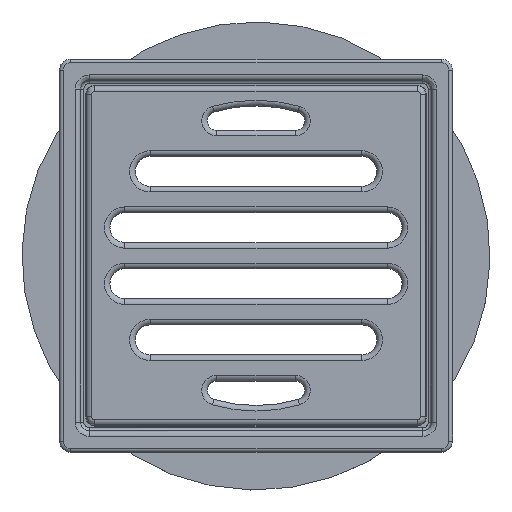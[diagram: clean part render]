
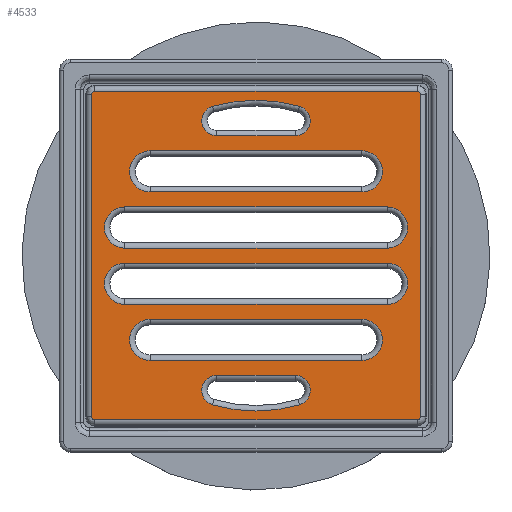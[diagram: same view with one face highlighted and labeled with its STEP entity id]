
A CAD part, top view. The second image highlights one B-rep face of the part: STEP entity #4533.
In plain terms, the highlighted planar face has unit normal (0, 0, 1).
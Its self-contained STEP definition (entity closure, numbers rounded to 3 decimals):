
#206=FACE_BOUND('',#959,.T.);
#207=FACE_BOUND('',#960,.T.);
#208=FACE_BOUND('',#961,.T.);
#209=FACE_BOUND('',#962,.T.);
#210=FACE_BOUND('',#963,.T.);
#211=FACE_BOUND('',#964,.T.);
#293=PLANE('',#5115);
#640=FACE_OUTER_BOUND('',#958,.T.);
#958=EDGE_LOOP('',(#3934,#3935,#3936,#3937,#3938,#3939,#3940,#3941));
#959=EDGE_LOOP('',(#3942,#3943,#3944,#3945));
#960=EDGE_LOOP('',(#3946,#3947,#3948,#3949));
#961=EDGE_LOOP('',(#3950,#3951,#3952,#3953));
#962=EDGE_LOOP('',(#3954,#3955,#3956,#3957));
#963=EDGE_LOOP('',(#3958,#3959,#3960,#3961));
#964=EDGE_LOOP('',(#3962,#3963,#3964,#3965));
#1278=LINE('',#9217,#1563);
#1279=LINE('',#9223,#1564);
#1310=LINE('',#9319,#1595);
#1311=LINE('',#9323,#1596);
#1312=LINE('',#9327,#1597);
#1313=LINE('',#9331,#1598);
#1314=LINE('',#9335,#1599);
#1315=LINE('',#9339,#1600);
#1316=LINE('',#9347,#1601);
#1317=LINE('',#9351,#1602);
#1318=LINE('',#9355,#1603);
#1319=LINE('',#9361,#1604);
#1320=LINE('',#9364,#1605);
#1321=LINE('',#9372,#1606);
#1563=VECTOR('',#6241,1.);
#1564=VECTOR('',#6250,1.);
#1595=VECTOR('',#6363,1.);
#1596=VECTOR('',#6366,1.);
#1597=VECTOR('',#6369,1.);
#1598=VECTOR('',#6372,1.);
#1599=VECTOR('',#6375,1.);
#1600=VECTOR('',#6378,1.);
#1601=VECTOR('',#6385,1.);
#1602=VECTOR('',#6388,1.);
#1603=VECTOR('',#6391,1.);
#1604=VECTOR('',#6396,1.);
#1605=VECTOR('',#6399,1.);
#1606=VECTOR('',#6406,1.);
#1821=CIRCLE('',#5067,5.5);
#1825=CIRCLE('',#5073,5.5);
#1842=CIRCLE('',#5116,0.88);
#1843=CIRCLE('',#5117,0.88);
#1844=CIRCLE('',#5118,0.88);
#1845=CIRCLE('',#5119,0.88);
#1846=CIRCLE('',#5120,5.5);
#1847=CIRCLE('',#5121,5.5);
#1848=CIRCLE('',#5122,41.5);
#1849=CIRCLE('',#5123,4.);
#1850=CIRCLE('',#5124,4.);
#1851=CIRCLE('',#5125,5.5);
#1852=CIRCLE('',#5126,5.5);
#1853=CIRCLE('',#5127,5.5);
#1854=CIRCLE('',#5128,5.5);
#1855=CIRCLE('',#5129,4.);
#1856=CIRCLE('',#5130,41.5);
#1857=CIRCLE('',#5131,4.);
#2226=VERTEX_POINT('',#9209);
#2227=VERTEX_POINT('',#9211);
#2228=VERTEX_POINT('',#9215);
#2229=VERTEX_POINT('',#9219);
#2252=VERTEX_POINT('',#9317);
#2253=VERTEX_POINT('',#9318);
#2254=VERTEX_POINT('',#9320);
#2255=VERTEX_POINT('',#9322);
#2256=VERTEX_POINT('',#9324);
#2257=VERTEX_POINT('',#9326);
#2258=VERTEX_POINT('',#9328);
#2259=VERTEX_POINT('',#9330);
#2260=VERTEX_POINT('',#9333);
#2261=VERTEX_POINT('',#9334);
#2262=VERTEX_POINT('',#9336);
#2263=VERTEX_POINT('',#9338);
#2264=VERTEX_POINT('',#9341);
#2265=VERTEX_POINT('',#9342);
#2266=VERTEX_POINT('',#9344);
#2267=VERTEX_POINT('',#9346);
#2268=VERTEX_POINT('',#9349);
#2269=VERTEX_POINT('',#9350);
#2270=VERTEX_POINT('',#9352);
#2271=VERTEX_POINT('',#9354);
#2272=VERTEX_POINT('',#9357);
#2273=VERTEX_POINT('',#9358);
#2274=VERTEX_POINT('',#9360);
#2275=VERTEX_POINT('',#9362);
#2276=VERTEX_POINT('',#9365);
#2277=VERTEX_POINT('',#9366);
#2278=VERTEX_POINT('',#9368);
#2279=VERTEX_POINT('',#9370);
#2785=EDGE_CURVE('',#2226,#2227,#1821,.T.);
#2788=EDGE_CURVE('',#2228,#2226,#1278,.T.);
#2790=EDGE_CURVE('',#2229,#2228,#1825,.T.);
#2791=EDGE_CURVE('',#2227,#2229,#1279,.T.);
#2838=EDGE_CURVE('',#2252,#2253,#1310,.F.);
#2839=EDGE_CURVE('',#2253,#2254,#1842,.T.);
#2840=EDGE_CURVE('',#2254,#2255,#1311,.T.);
#2841=EDGE_CURVE('',#2255,#2256,#1843,.T.);
#2842=EDGE_CURVE('',#2256,#2257,#1312,.F.);
#2843=EDGE_CURVE('',#2257,#2258,#1844,.T.);
#2844=EDGE_CURVE('',#2258,#2259,#1313,.T.);
#2845=EDGE_CURVE('',#2259,#2252,#1845,.T.);
#2846=EDGE_CURVE('',#2260,#2261,#1314,.F.);
#2847=EDGE_CURVE('',#2262,#2260,#1846,.T.);
#2848=EDGE_CURVE('',#2263,#2262,#1315,.F.);
#2849=EDGE_CURVE('',#2261,#2263,#1847,.T.);
#2850=EDGE_CURVE('',#2264,#2265,#1848,.T.);
#2851=EDGE_CURVE('',#2266,#2264,#1849,.T.);
#2852=EDGE_CURVE('',#2267,#2266,#1316,.F.);
#2853=EDGE_CURVE('',#2265,#2267,#1850,.T.);
#2854=EDGE_CURVE('',#2268,#2269,#1317,.F.);
#2855=EDGE_CURVE('',#2270,#2268,#1851,.T.);
#2856=EDGE_CURVE('',#2271,#2270,#1318,.F.);
#2857=EDGE_CURVE('',#2269,#2271,#1852,.T.);
#2858=EDGE_CURVE('',#2272,#2273,#1853,.T.);
#2859=EDGE_CURVE('',#2274,#2272,#1319,.T.);
#2860=EDGE_CURVE('',#2275,#2274,#1854,.T.);
#2861=EDGE_CURVE('',#2273,#2275,#1320,.T.);
#2862=EDGE_CURVE('',#2276,#2277,#1855,.T.);
#2863=EDGE_CURVE('',#2278,#2276,#1856,.T.);
#2864=EDGE_CURVE('',#2279,#2278,#1857,.T.);
#2865=EDGE_CURVE('',#2277,#2279,#1321,.T.);
#3934=ORIENTED_EDGE('',*,*,#2838,.T.);
#3935=ORIENTED_EDGE('',*,*,#2839,.T.);
#3936=ORIENTED_EDGE('',*,*,#2840,.T.);
#3937=ORIENTED_EDGE('',*,*,#2841,.T.);
#3938=ORIENTED_EDGE('',*,*,#2842,.T.);
#3939=ORIENTED_EDGE('',*,*,#2843,.T.);
#3940=ORIENTED_EDGE('',*,*,#2844,.T.);
#3941=ORIENTED_EDGE('',*,*,#2845,.T.);
#3942=ORIENTED_EDGE('',*,*,#2846,.F.);
#3943=ORIENTED_EDGE('',*,*,#2847,.F.);
#3944=ORIENTED_EDGE('',*,*,#2848,.F.);
#3945=ORIENTED_EDGE('',*,*,#2849,.F.);
#3946=ORIENTED_EDGE('',*,*,#2850,.F.);
#3947=ORIENTED_EDGE('',*,*,#2851,.F.);
#3948=ORIENTED_EDGE('',*,*,#2852,.F.);
#3949=ORIENTED_EDGE('',*,*,#2853,.F.);
#3950=ORIENTED_EDGE('',*,*,#2854,.F.);
#3951=ORIENTED_EDGE('',*,*,#2855,.F.);
#3952=ORIENTED_EDGE('',*,*,#2856,.F.);
#3953=ORIENTED_EDGE('',*,*,#2857,.F.);
#3954=ORIENTED_EDGE('',*,*,#2858,.F.);
#3955=ORIENTED_EDGE('',*,*,#2859,.F.);
#3956=ORIENTED_EDGE('',*,*,#2860,.F.);
#3957=ORIENTED_EDGE('',*,*,#2861,.F.);
#3958=ORIENTED_EDGE('',*,*,#2862,.F.);
#3959=ORIENTED_EDGE('',*,*,#2863,.F.);
#3960=ORIENTED_EDGE('',*,*,#2864,.F.);
#3961=ORIENTED_EDGE('',*,*,#2865,.F.);
#3962=ORIENTED_EDGE('',*,*,#2790,.F.);
#3963=ORIENTED_EDGE('',*,*,#2791,.F.);
#3964=ORIENTED_EDGE('',*,*,#2785,.F.);
#3965=ORIENTED_EDGE('',*,*,#2788,.F.);
#4533=ADVANCED_FACE('',(#640,#206,#207,#208,#209,#210,#211),#293,.T.);
#5067=AXIS2_PLACEMENT_3D('',#9212,#6233,#6234);
#5073=AXIS2_PLACEMENT_3D('',#9221,#6246,#6247);
#5115=AXIS2_PLACEMENT_3D('',#9316,#6361,#6362);
#5116=AXIS2_PLACEMENT_3D('',#9321,#6364,#6365);
#5117=AXIS2_PLACEMENT_3D('',#9325,#6367,#6368);
#5118=AXIS2_PLACEMENT_3D('',#9329,#6370,#6371);
#5119=AXIS2_PLACEMENT_3D('',#9332,#6373,#6374);
#5120=AXIS2_PLACEMENT_3D('',#9337,#6376,#6377);
#5121=AXIS2_PLACEMENT_3D('',#9340,#6379,#6380);
#5122=AXIS2_PLACEMENT_3D('',#9343,#6381,#6382);
#5123=AXIS2_PLACEMENT_3D('',#9345,#6383,#6384);
#5124=AXIS2_PLACEMENT_3D('',#9348,#6386,#6387);
#5125=AXIS2_PLACEMENT_3D('',#9353,#6389,#6390);
#5126=AXIS2_PLACEMENT_3D('',#9356,#6392,#6393);
#5127=AXIS2_PLACEMENT_3D('',#9359,#6394,#6395);
#5128=AXIS2_PLACEMENT_3D('',#9363,#6397,#6398);
#5129=AXIS2_PLACEMENT_3D('',#9367,#6400,#6401);
#5130=AXIS2_PLACEMENT_3D('',#9369,#6402,#6403);
#5131=AXIS2_PLACEMENT_3D('',#9371,#6404,#6405);
#6233=DIRECTION('center_axis',(0.,0.,1.));
#6234=DIRECTION('ref_axis',(-1.,0.,0.));
#6241=DIRECTION('',(1.,0.,0.));
#6246=DIRECTION('center_axis',(0.,0.,1.));
#6247=DIRECTION('ref_axis',(-1.,0.,0.));
#6250=DIRECTION('',(-1.,0.,0.));
#6361=DIRECTION('center_axis',(0.,0.,1.));
#6362=DIRECTION('ref_axis',(1.,0.,0.));
#6363=DIRECTION('',(0.,-1.,0.));
#6364=DIRECTION('center_axis',(0.,0.,1.));
#6365=DIRECTION('ref_axis',(-1.,0.,0.));
#6366=DIRECTION('',(-1.,0.,0.));
#6367=DIRECTION('center_axis',(0.,0.,1.));
#6368=DIRECTION('ref_axis',(-1.,0.,0.));
#6369=DIRECTION('',(0.,1.,0.));
#6370=DIRECTION('center_axis',(0.,0.,1.));
#6371=DIRECTION('ref_axis',(-1.,0.,0.));
#6372=DIRECTION('',(1.,0.,0.));
#6373=DIRECTION('center_axis',(0.,0.,1.));
#6374=DIRECTION('ref_axis',(-1.,0.,0.));
#6375=DIRECTION('',(-1.,0.,0.));
#6376=DIRECTION('center_axis',(0.,0.,1.));
#6377=DIRECTION('ref_axis',(-1.,0.,0.));
#6378=DIRECTION('',(1.,0.,0.));
#6379=DIRECTION('center_axis',(0.,0.,1.));
#6380=DIRECTION('ref_axis',(-1.,0.,0.));
#6381=DIRECTION('center_axis',(0.,0.,1.));
#6382=DIRECTION('ref_axis',(-1.,0.,0.));
#6383=DIRECTION('center_axis',(0.,0.,1.));
#6384=DIRECTION('ref_axis',(-1.,0.,0.));
#6385=DIRECTION('',(1.,0.,0.));
#6386=DIRECTION('center_axis',(0.,0.,1.));
#6387=DIRECTION('ref_axis',(-1.,0.,0.));
#6388=DIRECTION('',(-1.,0.,0.));
#6389=DIRECTION('center_axis',(0.,0.,1.));
#6390=DIRECTION('ref_axis',(-1.,0.,0.));
#6391=DIRECTION('',(1.,0.,0.));
#6392=DIRECTION('center_axis',(0.,0.,1.));
#6393=DIRECTION('ref_axis',(-1.,0.,0.));
#6394=DIRECTION('center_axis',(0.,0.,1.));
#6395=DIRECTION('ref_axis',(-1.,0.,0.));
#6396=DIRECTION('',(-1.,0.,0.));
#6397=DIRECTION('center_axis',(0.,0.,1.));
#6398=DIRECTION('ref_axis',(-1.,0.,0.));
#6399=DIRECTION('',(1.,0.,0.));
#6400=DIRECTION('center_axis',(0.,0.,1.));
#6401=DIRECTION('ref_axis',(-1.,0.,0.));
#6402=DIRECTION('center_axis',(0.,0.,1.));
#6403=DIRECTION('ref_axis',(-1.,0.,0.));
#6404=DIRECTION('center_axis',(0.,0.,1.));
#6405=DIRECTION('ref_axis',(-1.,0.,0.));
#6406=DIRECTION('',(1.,0.,0.));
#9209=CARTESIAN_POINT('',(35.,2.,4.9));
#9211=CARTESIAN_POINT('',(35.,13.,4.9));
#9212=CARTESIAN_POINT('Origin',(35.,7.5,4.9));
#9215=CARTESIAN_POINT('',(-35.,2.,4.9));
#9217=CARTESIAN_POINT('',(0.,2.,4.9));
#9219=CARTESIAN_POINT('',(-35.,13.,4.9));
#9221=CARTESIAN_POINT('Origin',(-35.,7.5,4.9));
#9223=CARTESIAN_POINT('',(0.,13.,4.9));
#9316=CARTESIAN_POINT('Origin',(0.,0.,4.9));
#9317=CARTESIAN_POINT('',(43.88,-43.,4.9));
#9318=CARTESIAN_POINT('',(43.88,43.,4.9));
#9319=CARTESIAN_POINT('',(43.88,0.,4.9));
#9320=CARTESIAN_POINT('',(43.,43.88,4.9));
#9321=CARTESIAN_POINT('Origin',(43.,43.,4.9));
#9322=CARTESIAN_POINT('',(-43.,43.88,4.9));
#9323=CARTESIAN_POINT('',(0.,43.88,4.9));
#9324=CARTESIAN_POINT('',(-43.88,43.,4.9));
#9325=CARTESIAN_POINT('Origin',(-43.,43.,4.9));
#9326=CARTESIAN_POINT('',(-43.88,-43.,4.9));
#9327=CARTESIAN_POINT('',(-43.88,0.,4.9));
#9328=CARTESIAN_POINT('',(-43.,-43.88,4.9));
#9329=CARTESIAN_POINT('Origin',(-43.,-43.,4.9));
#9330=CARTESIAN_POINT('',(43.,-43.88,4.9));
#9331=CARTESIAN_POINT('',(0.,-43.88,4.9));
#9332=CARTESIAN_POINT('Origin',(43.,-43.,4.9));
#9333=CARTESIAN_POINT('',(-28.25,-28.,4.9));
#9334=CARTESIAN_POINT('',(28.25,-28.,4.9));
#9335=CARTESIAN_POINT('',(0.,-28.,4.9));
#9336=CARTESIAN_POINT('',(-28.25,-17.,4.9));
#9337=CARTESIAN_POINT('Origin',(-28.25,-22.5,4.9));
#9338=CARTESIAN_POINT('',(28.25,-17.,4.9));
#9339=CARTESIAN_POINT('',(0.,-17.,4.9));
#9340=CARTESIAN_POINT('Origin',(28.25,-22.5,4.9));
#9341=CARTESIAN_POINT('',(-11.62,-39.84,4.9));
#9342=CARTESIAN_POINT('',(11.62,-39.84,4.9));
#9343=CARTESIAN_POINT('Origin',(0.,0.,4.9));
#9344=CARTESIAN_POINT('',(-10.5,-32.,4.9));
#9345=CARTESIAN_POINT('Origin',(-10.5,-36.,4.9));
#9346=CARTESIAN_POINT('',(10.5,-32.,4.9));
#9347=CARTESIAN_POINT('',(0.,-32.,4.9));
#9348=CARTESIAN_POINT('Origin',(10.5,-36.,4.9));
#9349=CARTESIAN_POINT('',(-35.,-13.,4.9));
#9350=CARTESIAN_POINT('',(35.,-13.,4.9));
#9351=CARTESIAN_POINT('',(0.,-13.,4.9));
#9352=CARTESIAN_POINT('',(-35.,-2.,4.9));
#9353=CARTESIAN_POINT('Origin',(-35.,-7.5,4.9));
#9354=CARTESIAN_POINT('',(35.,-2.,4.9));
#9355=CARTESIAN_POINT('',(0.,-2.,4.9));
#9356=CARTESIAN_POINT('Origin',(35.,-7.5,4.9));
#9357=CARTESIAN_POINT('',(-28.25,28.,4.9));
#9358=CARTESIAN_POINT('',(-28.25,17.,4.9));
#9359=CARTESIAN_POINT('Origin',(-28.25,22.5,4.9));
#9360=CARTESIAN_POINT('',(28.25,28.,4.9));
#9361=CARTESIAN_POINT('',(0.,28.,4.9));
#9362=CARTESIAN_POINT('',(28.25,17.,4.9));
#9363=CARTESIAN_POINT('Origin',(28.25,22.5,4.9));
#9364=CARTESIAN_POINT('',(0.,17.,4.9));
#9365=CARTESIAN_POINT('',(-11.62,39.84,4.9));
#9366=CARTESIAN_POINT('',(-10.5,32.,4.9));
#9367=CARTESIAN_POINT('Origin',(-10.5,36.,4.9));
#9368=CARTESIAN_POINT('',(11.62,39.84,4.9));
#9369=CARTESIAN_POINT('Origin',(0.,0.,4.9));
#9370=CARTESIAN_POINT('',(10.5,32.,4.9));
#9371=CARTESIAN_POINT('Origin',(10.5,36.,4.9));
#9372=CARTESIAN_POINT('',(0.,32.,4.9));
